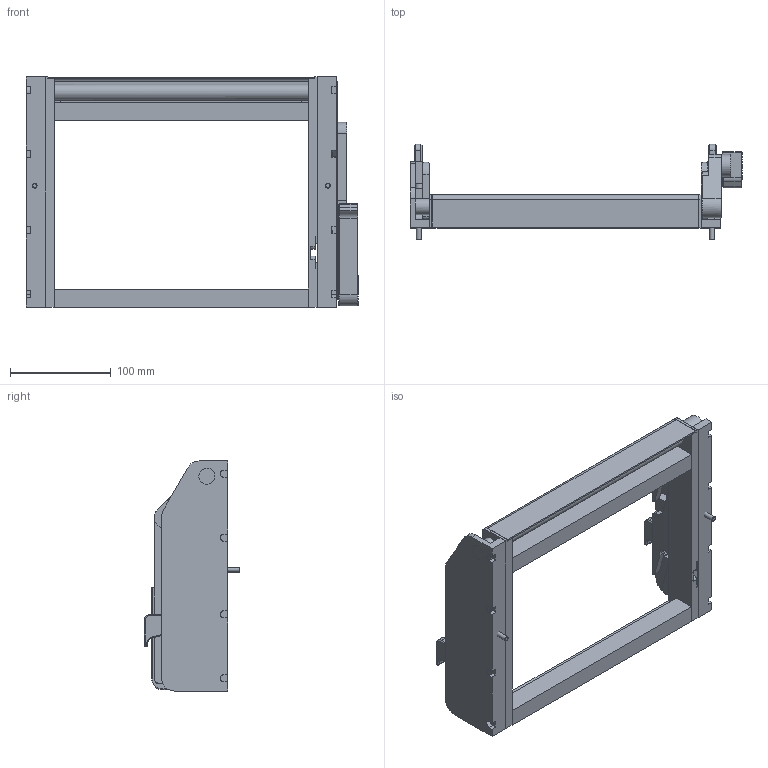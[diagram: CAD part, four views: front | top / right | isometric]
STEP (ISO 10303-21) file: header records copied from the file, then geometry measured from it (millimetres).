
FILE_DESCRIPTION((''),'2;1');
FILE_NAME('C:\old_Drawings\shrinkwrapped website .stp files\561057-STP.stp','2012-07-09T15:35:49',('GaryRobinson'),(''),'Autodesk Inventor 2011','Autodesk Inventor 2011','');
FILE_SCHEMA(('AUTOMOTIVE_DESIGN { 1 0 10303 214 1 1 1 1 }'));
Length unit declared in the file: inch
Products named in the file (1): 561057-STP
Bounding box: 329.88 x 95.14 x 228.6 mm (x, y, z)
Surface area: 265720.6 mm2 (no closed solid volume)
Topology: 0 solids, 23 shells, 304 faces, 1018 edges, 702 vertices
Faces by surface type: plane 192, cylinder 89, cone 16, torus 7
Full cylindrical faces by diameter (mm): 4.826 x2, 7.925 x2, 15.875 x1
Entity records: 11368 total; most frequent: CARTESIAN_POINT 2076, DIRECTION 1895, ORIENTED_EDGE 1659, EDGE_CURVE 1012, VECTOR 723, LINE 723, VERTEX_POINT 701, AXIS2_PLACEMENT_3D 586
